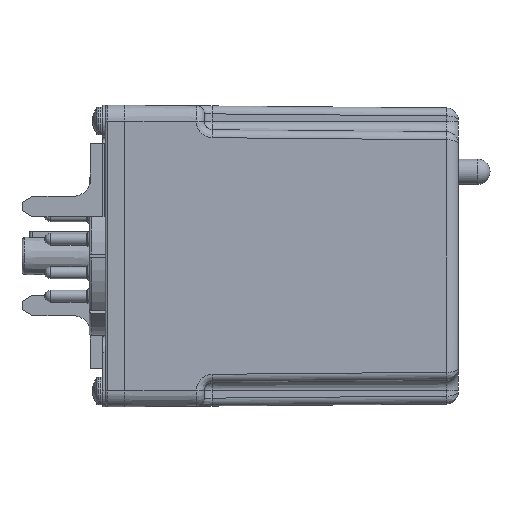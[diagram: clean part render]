
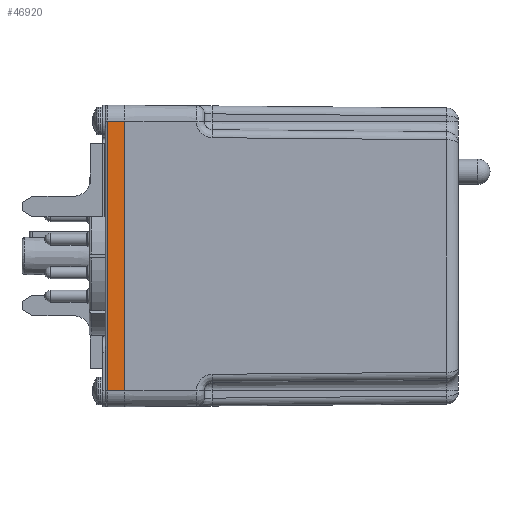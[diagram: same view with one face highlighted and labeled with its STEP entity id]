
A CAD part, left-side view. The second image highlights one B-rep face of the part: STEP entity #46920.
In plain terms, the highlighted planar face has unit normal (-1, 0, 0).
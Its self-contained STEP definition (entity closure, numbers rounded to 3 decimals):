
#26853 = PLANE('',#26854);
#26854 = AXIS2_PLACEMENT_3D('',#26855,#26856,#26857);
#26855 = CARTESIAN_POINT('',(22.225,87.173,30.163));
#26856 = DIRECTION('',(0.,1.,0.));
#26857 = DIRECTION('',(-1.,0.,0.));
#33898 = VERTEX_POINT('',#33899);
#33899 = CARTESIAN_POINT('',(-22.225,87.173,26.988));
#33918 = CYLINDRICAL_SURFACE('',#33919,3.175);
#33919 = AXIS2_PLACEMENT_3D('',#33920,#33921,#33922);
#33920 = CARTESIAN_POINT('',(-19.05,91.135,26.988));
#33921 = DIRECTION('',(0.,1.,0.));
#33922 = DIRECTION('',(0.,0.,1.));
#33930 = EDGE_CURVE('',#33898,#33931,#33933,.T.);
#33931 = VERTEX_POINT('',#33932);
#33932 = CARTESIAN_POINT('',(-22.225,87.173,-26.988));
#33933 = SURFACE_CURVE('',#33934,(#33938,#33945),.PCURVE_S1.);
#33934 = LINE('',#33935,#33936);
#33935 = CARTESIAN_POINT('',(-22.225,87.173,30.163));
#33936 = VECTOR('',#33937,1.);
#33937 = DIRECTION('',(-0.,-0.,-1.));
#33938 = PCURVE('',#26853,#33939);
#33939 = DEFINITIONAL_REPRESENTATION('',(#33940),#33944);
#33940 = LINE('',#33941,#33942);
#33941 = CARTESIAN_POINT('',(44.45,0.));
#33942 = VECTOR('',#33943,1.);
#33943 = DIRECTION('',(0.,-1.));
#33944 = ( GEOMETRIC_REPRESENTATION_CONTEXT(2) 
PARAMETRIC_REPRESENTATION_CONTEXT() REPRESENTATION_CONTEXT('2D SPACE',''
  ) );
#33945 = PCURVE('',#33946,#33951);
#33946 = PLANE('',#33947);
#33947 = AXIS2_PLACEMENT_3D('',#33948,#33949,#33950);
#33948 = CARTESIAN_POINT('',(-22.225,87.173,30.163));
#33949 = DIRECTION('',(1.,0.,0.));
#33950 = DIRECTION('',(0.,0.,-1.));
#33951 = DEFINITIONAL_REPRESENTATION('',(#33952),#33956);
#33952 = LINE('',#33953,#33954);
#33953 = CARTESIAN_POINT('',(0.,0.));
#33954 = VECTOR('',#33955,1.);
#33955 = DIRECTION('',(1.,0.));
#33956 = ( GEOMETRIC_REPRESENTATION_CONTEXT(2) 
PARAMETRIC_REPRESENTATION_CONTEXT() REPRESENTATION_CONTEXT('2D SPACE',''
  ) );
#33977 = CYLINDRICAL_SURFACE('',#33978,3.175);
#33978 = AXIS2_PLACEMENT_3D('',#33979,#33980,#33981);
#33979 = CARTESIAN_POINT('',(-19.05,87.173,-26.988));
#33980 = DIRECTION('',(0.,-1.,0.));
#33981 = DIRECTION('',(0.,0.,-1.));
#41948 = CYLINDRICAL_SURFACE('',#41949,0.508);
#41949 = AXIS2_PLACEMENT_3D('',#41950,#41951,#41952);
#41950 = CARTESIAN_POINT('',(-21.717,90.627,30.163));
#41951 = DIRECTION('',(0.,0.,-1.));
#41952 = DIRECTION('',(-1.,0.,0.));
#46920 = ADVANCED_FACE('',(#46921),#33946,.F.);
#46921 = FACE_BOUND('',#46922,.T.);
#46922 = EDGE_LOOP('',(#46923,#46946,#46969,#46990));
#46923 = ORIENTED_EDGE('',*,*,#46924,.T.);
#46924 = EDGE_CURVE('',#33898,#46925,#46927,.T.);
#46925 = VERTEX_POINT('',#46926);
#46926 = CARTESIAN_POINT('',(-22.225,90.627,26.988));
#46927 = SURFACE_CURVE('',#46928,(#46932,#46939),.PCURVE_S1.);
#46928 = LINE('',#46929,#46930);
#46929 = CARTESIAN_POINT('',(-22.225,91.135,26.988));
#46930 = VECTOR('',#46931,1.);
#46931 = DIRECTION('',(0.,1.,0.));
#46932 = PCURVE('',#33946,#46933);
#46933 = DEFINITIONAL_REPRESENTATION('',(#46934),#46938);
#46934 = LINE('',#46935,#46936);
#46935 = CARTESIAN_POINT('',(3.175,3.962));
#46936 = VECTOR('',#46937,1.);
#46937 = DIRECTION('',(0.,1.));
#46938 = ( GEOMETRIC_REPRESENTATION_CONTEXT(2) 
PARAMETRIC_REPRESENTATION_CONTEXT() REPRESENTATION_CONTEXT('2D SPACE',''
  ) );
#46939 = PCURVE('',#33918,#46940);
#46940 = DEFINITIONAL_REPRESENTATION('',(#46941),#46945);
#46941 = LINE('',#46942,#46943);
#46942 = CARTESIAN_POINT('',(4.712,0.));
#46943 = VECTOR('',#46944,1.);
#46944 = DIRECTION('',(0.,1.));
#46945 = ( GEOMETRIC_REPRESENTATION_CONTEXT(2) 
PARAMETRIC_REPRESENTATION_CONTEXT() REPRESENTATION_CONTEXT('2D SPACE',''
  ) );
#46946 = ORIENTED_EDGE('',*,*,#46947,.T.);
#46947 = EDGE_CURVE('',#46925,#46948,#46950,.T.);
#46948 = VERTEX_POINT('',#46949);
#46949 = CARTESIAN_POINT('',(-22.225,90.627,-26.988));
#46950 = SURFACE_CURVE('',#46951,(#46955,#46962),.PCURVE_S1.);
#46951 = LINE('',#46952,#46953);
#46952 = CARTESIAN_POINT('',(-22.225,90.627,30.163));
#46953 = VECTOR('',#46954,1.);
#46954 = DIRECTION('',(0.,0.,-1.));
#46955 = PCURVE('',#33946,#46956);
#46956 = DEFINITIONAL_REPRESENTATION('',(#46957),#46961);
#46957 = LINE('',#46958,#46959);
#46958 = CARTESIAN_POINT('',(0.,3.454));
#46959 = VECTOR('',#46960,1.);
#46960 = DIRECTION('',(1.,0.));
#46961 = ( GEOMETRIC_REPRESENTATION_CONTEXT(2) 
PARAMETRIC_REPRESENTATION_CONTEXT() REPRESENTATION_CONTEXT('2D SPACE',''
  ) );
#46962 = PCURVE('',#41948,#46963);
#46963 = DEFINITIONAL_REPRESENTATION('',(#46964),#46968);
#46964 = LINE('',#46965,#46966);
#46965 = CARTESIAN_POINT('',(0.,0.));
#46966 = VECTOR('',#46967,1.);
#46967 = DIRECTION('',(0.,1.));
#46968 = ( GEOMETRIC_REPRESENTATION_CONTEXT(2) 
PARAMETRIC_REPRESENTATION_CONTEXT() REPRESENTATION_CONTEXT('2D SPACE',''
  ) );
#46969 = ORIENTED_EDGE('',*,*,#46970,.T.);
#46970 = EDGE_CURVE('',#46948,#33931,#46971,.T.);
#46971 = SURFACE_CURVE('',#46972,(#46976,#46983),.PCURVE_S1.);
#46972 = LINE('',#46973,#46974);
#46973 = CARTESIAN_POINT('',(-22.225,87.173,-26.988));
#46974 = VECTOR('',#46975,1.);
#46975 = DIRECTION('',(0.,-1.,0.));
#46976 = PCURVE('',#33946,#46977);
#46977 = DEFINITIONAL_REPRESENTATION('',(#46978),#46982);
#46978 = LINE('',#46979,#46980);
#46979 = CARTESIAN_POINT('',(57.15,0.));
#46980 = VECTOR('',#46981,1.);
#46981 = DIRECTION('',(0.,-1.));
#46982 = ( GEOMETRIC_REPRESENTATION_CONTEXT(2) 
PARAMETRIC_REPRESENTATION_CONTEXT() REPRESENTATION_CONTEXT('2D SPACE',''
  ) );
#46983 = PCURVE('',#33977,#46984);
#46984 = DEFINITIONAL_REPRESENTATION('',(#46985),#46989);
#46985 = LINE('',#46986,#46987);
#46986 = CARTESIAN_POINT('',(4.712,0.));
#46987 = VECTOR('',#46988,1.);
#46988 = DIRECTION('',(0.,1.));
#46989 = ( GEOMETRIC_REPRESENTATION_CONTEXT(2) 
PARAMETRIC_REPRESENTATION_CONTEXT() REPRESENTATION_CONTEXT('2D SPACE',''
  ) );
#46990 = ORIENTED_EDGE('',*,*,#33930,.F.);
